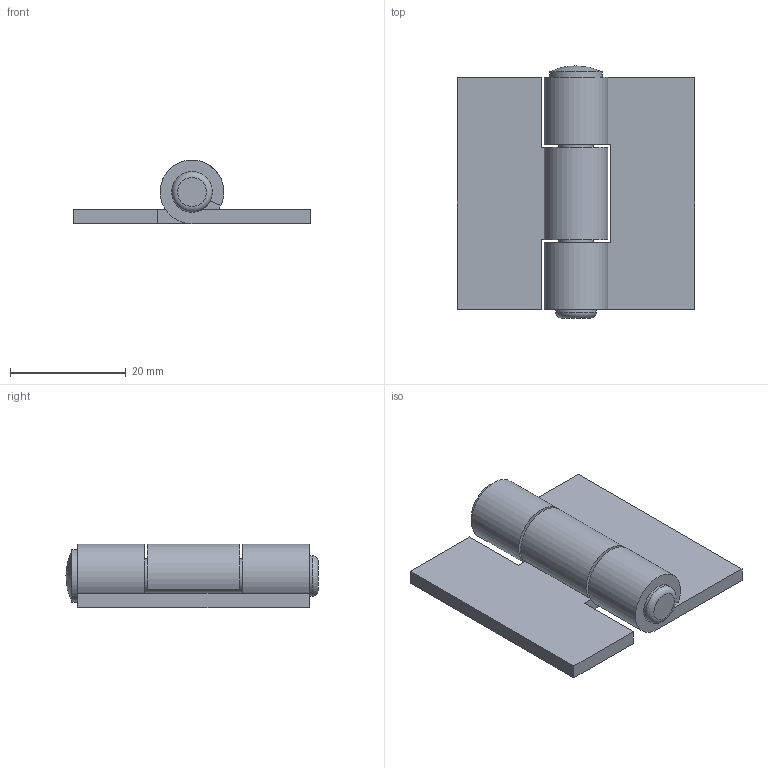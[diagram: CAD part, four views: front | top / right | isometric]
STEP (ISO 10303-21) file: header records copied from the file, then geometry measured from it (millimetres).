
FILE_DESCRIPTION(/* description */ (''),/* implementation_level */ '2;1');
FILE_NAME(/* name */ '\\NAS\db20\HHN4041-25\DR_HHN4041-25.stp',/* time_stamp */ '2018-08-11T15:25:46+09:00',/* author */ ('user'),/* organization */ (''),/* preprocessor_version */ 'ST-DEVELOPER v15.6',/* originating_system */ 'Autodesk Inventor 2015',/* authorisation */ '');
FILE_SCHEMA (('AUTOMOTIVE_DESIGN { 1 0 10303 214 3 1 1 }'));
Length unit declared in the file: millimetre
Products named in the file (3): DR_HHN4041-25-P1; DR_HHN4041-25-P2; DR_HHN4041-25
Bounding box: 41 x 43.5 x 10.99 mm (x, y, z)
Volume: 6898.7 mm3; surface area: 6414.2 mm2
Topology: 3 solids, 3 shells, 34 faces, 80 edges, 53 vertices
Faces by surface type: plane 23, cylinder 9, torus 1, sphere 1
Full cylindrical faces by diameter (mm): 6 x1, 7 x1, 9 x1
Entity records: 1010 total; most frequent: DIRECTION 170, CARTESIAN_POINT 163, ORIENTED_EDGE 146, EDGE_CURVE 73, AXIS2_PLACEMENT_3D 58, LINE 54, VECTOR 54, VERTEX_POINT 51
